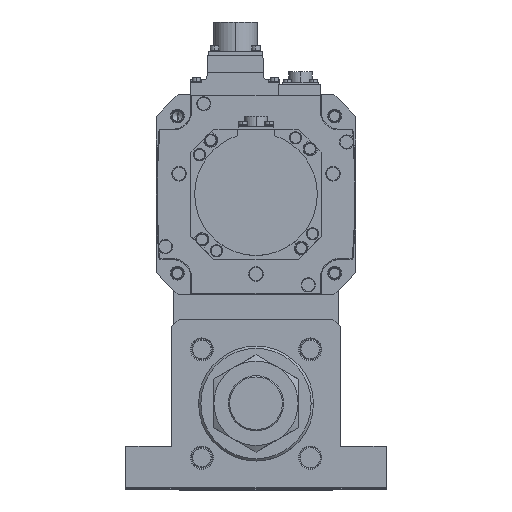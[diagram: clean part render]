
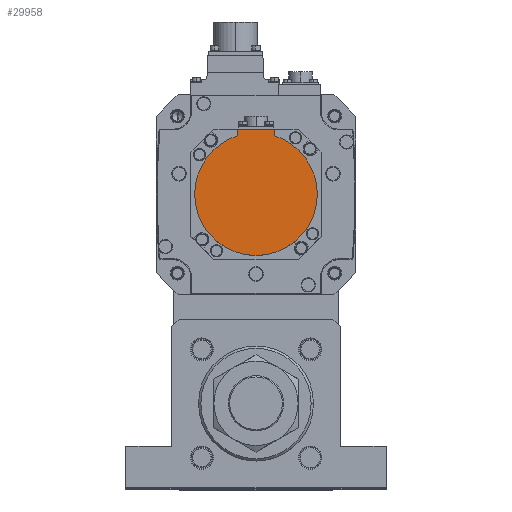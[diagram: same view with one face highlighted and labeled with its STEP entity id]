
A CAD part, top view. The second image highlights one B-rep face of the part: STEP entity #29958.
In plain terms, the highlighted planar face has unit normal (0, 0, 1) as drawn and (0, 0, -1) by its records, which use the part's own axes.
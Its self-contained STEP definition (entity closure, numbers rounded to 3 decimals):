
#16 = ORIENTED_EDGE ( 'NONE', *, *, #4271, .T. ) ;
#1245 = CARTESIAN_POINT ( 'NONE',  ( -40., 0., -167. ) ) ;
#2193 = DIRECTION ( 'NONE',  ( 0., 0., 1. ) ) ;
#3126 = CARTESIAN_POINT ( 'NONE',  ( 0., 0., -167. ) ) ;
#4103 = EDGE_CURVE ( 'NONE', #32131, #20154, #24792, .T. ) ;
#4271 = EDGE_CURVE ( 'NONE', #29324, #15572, #5525, .T. ) ;
#5525 = LINE ( 'NONE', #29898, #9556 ) ;
#5740 = VERTEX_POINT ( 'NONE', #24629 ) ;
#6014 = CIRCLE ( 'NONE', #28065, 40. ) ;
#6144 = DIRECTION ( 'NONE',  ( 0., 0., 1. ) ) ;
#6405 = DIRECTION ( 'NONE',  ( 0., 0., 1. ) ) ;
#8548 = PLANE ( 'NONE',  #35733 ) ;
#9556 = VECTOR ( 'NONE', #32402, 1000. ) ;
#9888 = DIRECTION ( 'NONE',  ( 0., 1., 0. ) ) ;
#11074 = DIRECTION ( 'NONE',  ( 1., 0., 0. ) ) ;
#11358 = EDGE_CURVE ( 'NONE', #20154, #5740, #21895, .T. ) ;
#12052 = CARTESIAN_POINT ( 'NONE',  ( 0., 0., -167. ) ) ;
#12172 = EDGE_CURVE ( 'NONE', #15572, #5740, #19654, .T. ) ;
#12909 = VECTOR ( 'NONE', #27638, 1000. ) ;
#13100 = CARTESIAN_POINT ( 'NONE',  ( -12., -40.329, -167. ) ) ;
#15572 = VERTEX_POINT ( 'NONE', #31387 ) ;
#19250 = FACE_OUTER_BOUND ( 'NONE', #27994, .T. ) ;
#19365 = CARTESIAN_POINT ( 'NONE',  ( 0., 0., -167. ) ) ;
#19510 = ORIENTED_EDGE ( 'NONE', *, *, #35769, .F. ) ;
#19610 = DIRECTION ( 'NONE',  ( 1., 0., 0. ) ) ;
#19654 = LINE ( 'NONE', #13100, #12909 ) ;
#20056 = ORIENTED_EDGE ( 'NONE', *, *, #26925, .F. ) ;
#20154 = VERTEX_POINT ( 'NONE', #1245 ) ;
#21895 = CIRCLE ( 'NONE', #32861, 40. ) ;
#22835 = ORIENTED_EDGE ( 'NONE', *, *, #11358, .F. ) ;
#23038 = LINE ( 'NONE', #29543, #33321 ) ;
#24629 = CARTESIAN_POINT ( 'NONE',  ( -12., -38.158, -167. ) ) ;
#24737 = CARTESIAN_POINT ( 'NONE',  ( 12., -38.158, -167. ) ) ;
#24792 = CIRCLE ( 'NONE', #28046, 40. ) ;
#26155 = DIRECTION ( 'NONE',  ( 1., 0., 0. ) ) ;
#26306 = DIRECTION ( 'NONE',  ( 1., 0., 0. ) ) ;
#26925 = EDGE_CURVE ( 'NONE', #32580, #32131, #6014, .T. ) ;
#27031 = ORIENTED_EDGE ( 'NONE', *, *, #4103, .F. ) ;
#27638 = DIRECTION ( 'NONE',  ( 0., 1., 0. ) ) ;
#27994 = EDGE_LOOP ( 'NONE', ( #35413, #22835, #27031, #20056, #19510, #16 ) ) ;
#28046 = AXIS2_PLACEMENT_3D ( 'NONE', #19365, #2193, #19610 ) ;
#28065 = AXIS2_PLACEMENT_3D ( 'NONE', #3126, #6144, #26155 ) ;
#28227 = DIRECTION ( 'NONE',  ( 0., 0., 1. ) ) ;
#29324 = VERTEX_POINT ( 'NONE', #33548 ) ;
#29543 = CARTESIAN_POINT ( 'NONE',  ( 12., -1.249, -167. ) ) ;
#29898 = CARTESIAN_POINT ( 'NONE',  ( 0., -42.5, -167. ) ) ;
#29958 = ADVANCED_FACE ( 'NONE', ( #19250 ), #8548, .F. ) ;
#31387 = CARTESIAN_POINT ( 'NONE',  ( -12., -42.5, -167. ) ) ;
#32131 = VERTEX_POINT ( 'NONE', #34253 ) ;
#32402 = DIRECTION ( 'NONE',  ( -1., 0., 0. ) ) ;
#32580 = VERTEX_POINT ( 'NONE', #24737 ) ;
#32861 = AXIS2_PLACEMENT_3D ( 'NONE', #12052, #6405, #26306 ) ;
#33321 = VECTOR ( 'NONE', #9888, 1000. ) ;
#33548 = CARTESIAN_POINT ( 'NONE',  ( 12., -42.5, -167. ) ) ;
#34253 = CARTESIAN_POINT ( 'NONE',  ( 40., 0., -167. ) ) ;
#35413 = ORIENTED_EDGE ( 'NONE', *, *, #12172, .T. ) ;
#35733 = AXIS2_PLACEMENT_3D ( 'NONE', #36682, #28227, #11074 ) ;
#35769 = EDGE_CURVE ( 'NONE', #29324, #32580, #23038, .T. ) ;
#36682 = CARTESIAN_POINT ( 'NONE',  ( 0., -1.249, -167. ) ) ;
